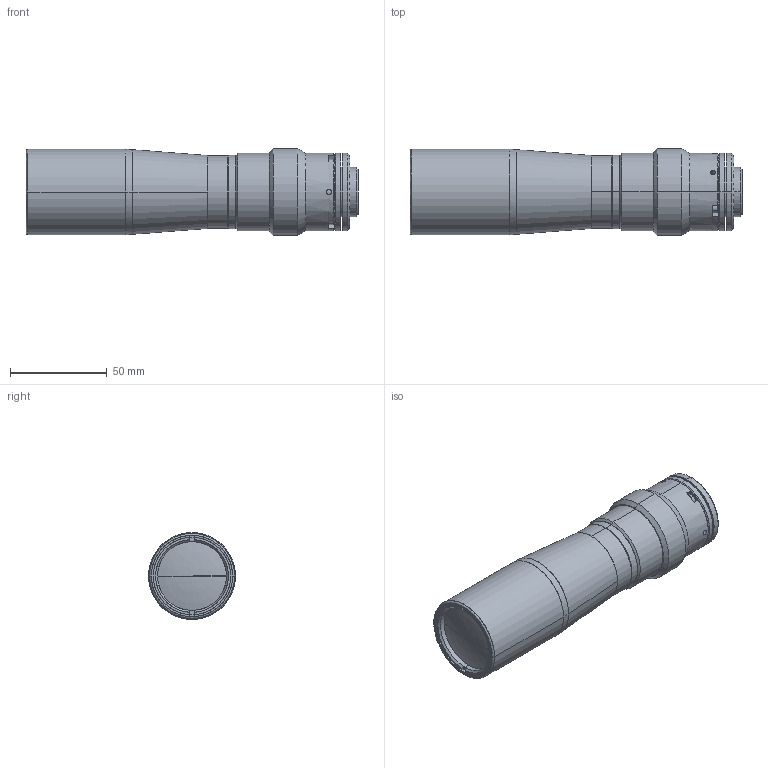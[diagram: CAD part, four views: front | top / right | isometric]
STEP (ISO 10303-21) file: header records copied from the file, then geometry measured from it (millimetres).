
FILE_DESCRIPTION(('LS-TCL-0258'),'2;1');
FILE_NAME('LS-TCL-0258.stp','2026-10-15T21:55:06',('LumaSpec Vision'),('LumaSpec Vision'),'LumaSpec Vision','LumaSpec Vision','');
FILE_SCHEMA(('AUTOMOTIVE_DESIGN { 1 0 10303 214 1 1 1 1 }'));
Length unit declared in the file: millimetre
Products named in the file (100): LumaSpec Vision
Assembly tree (99 placements, depth 2):
  LumaSpec Vision
    LumaSpec Vision
    LumaSpec Vision
    LumaSpec Vision
    LumaSpec Vision
    LumaSpec Vision
    LumaSpec Vision
    LumaSpec Vision
    LumaSpec Vision
    LumaSpec Vision
    LumaSpec Vision
    LumaSpec Vision
    LumaSpec Vision
    LumaSpec Vision
    LumaSpec Vision
    LumaSpec Vision
    LumaSpec Vision
    LumaSpec Vision
    LumaSpec Vision
    LumaSpec Vision
    LumaSpec Vision
    LumaSpec Vision
    LumaSpec Vision
    LumaSpec Vision
    LumaSpec Vision
    LumaSpec Vision
    LumaSpec Vision
    LumaSpec Vision
    LumaSpec Vision
    LumaSpec Vision
    LumaSpec Vision
    LumaSpec Vision
    LumaSpec Vision
    LumaSpec Vision
    LumaSpec Vision
    LumaSpec Vision
    LumaSpec Vision
    LumaSpec Vision
    LumaSpec Vision
    LumaSpec Vision
    LumaSpec Vision
    LumaSpec Vision
    LumaSpec Vision
    LumaSpec Vision
    LumaSpec Vision
    LumaSpec Vision
    LumaSpec Vision
    LumaSpec Vision
    LumaSpec Vision
    LumaSpec Vision
    LumaSpec Vision
    LumaSpec Vision
    LumaSpec Vision
    LumaSpec Vision
    LumaSpec Vision
    LumaSpec Vision
    LumaSpec Vision
    LumaSpec Vision
    LumaSpec Vision
    LumaSpec Vision
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Bounding box: 171.61 x 45 x 45 mm (x, y, z)
Surface area: 32565.4 mm2 (no closed solid volume)
Topology: 0 solids, 99 shells, 99 faces, 2231 edges, 2230 vertices
Faces by surface type: revolution 62, bspline 37
Entity records: 36752 total; most frequent: CARTESIAN_POINT 15491, B_SPLINE_CURVE_WITH_KNOTS 4131, ORIENTED_EDGE 2230, EDGE_CURVE 2230, VERTEX_POINT 2230, SURFACE_CURVE 2230, PCURVE 2230, DEFINITIONAL_REPRESENTATION 2230
